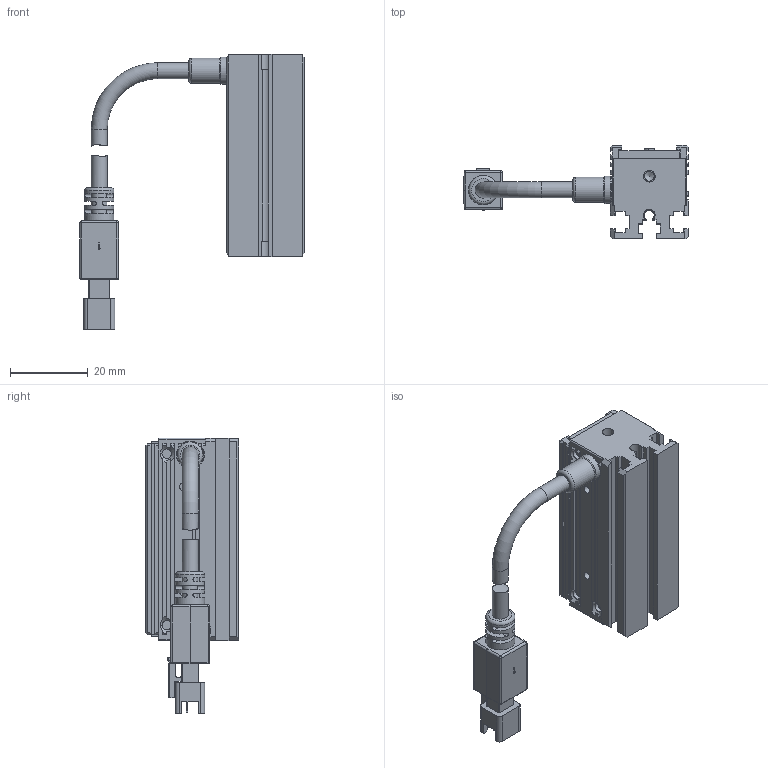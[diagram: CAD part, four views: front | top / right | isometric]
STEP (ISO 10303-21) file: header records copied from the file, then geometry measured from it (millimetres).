
FILE_DESCRIPTION (( 'STEP AP203' ), '1' );
FILE_NAME ('OPT-ULI5220W-UV-V1.0U 尨砩芞.STEP', '2024-12-11T03:14:28', ( '' ), ( '' ), 'SwSTEP 2.0', 'SolidWorks 2016', '' );
FILE_SCHEMA (( 'CONFIG_CONTROL_DESIGN' ));
Length unit declared in the file: millimetre
Products named in the file (1): OPT-ULI5220W-UV-V1.0U 尨砩芞
Bounding box: 57.6 x 24 x 70.8 mm (x, y, z)
Volume: 22592.1 mm3; surface area: 13078.3 mm2
Topology: 6 solids, 16 shells, 626 faces, 1624 edges, 1048 vertices
Faces by surface type: plane 427, cylinder 140, cone 30, bspline 21, torus 8
Full cylindrical faces by diameter (mm): 1.1 x2, 1.4 x4, 1.6 x9, 2 x11, 2.4 x7, 2.5 x2, 2.6 x2, 3 x2, 3.5 x1, 4.1 x4, 6.5 x1, 7 x1, 7.5 x1
Entity records: 19056 total; most frequent: CARTESIAN_POINT 4369, ORIENTED_EDGE 3002, DIRECTION 2910, EDGE_CURVE 1501, VECTOR 1044, LINE 1044, VERTEX_POINT 1006, AXIS2_PLACEMENT_3D 933
